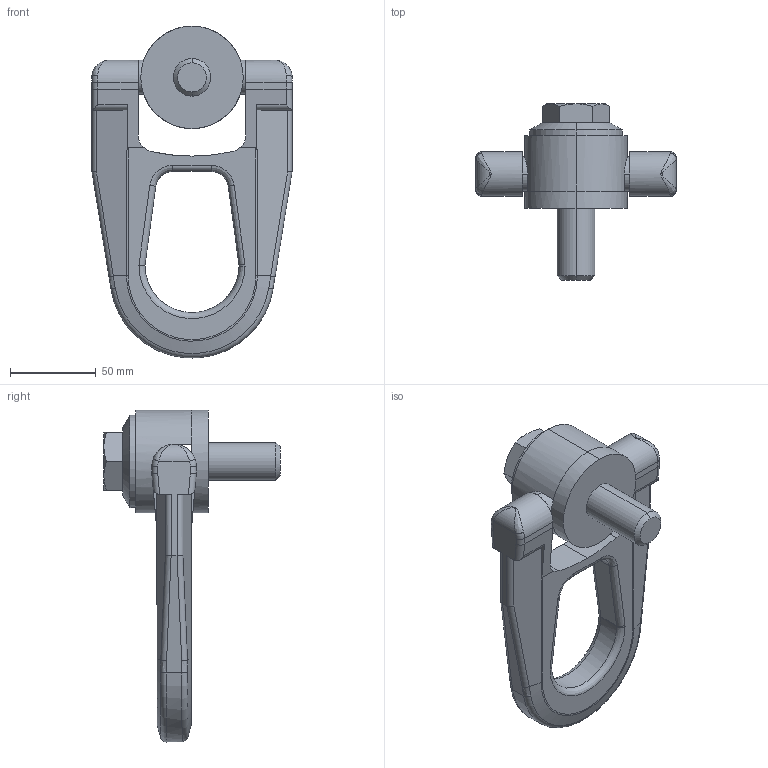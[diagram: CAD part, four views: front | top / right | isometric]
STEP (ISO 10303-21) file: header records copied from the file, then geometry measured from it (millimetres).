
FILE_DESCRIPTION (( 'STEP AP203' ), '1' );
FILE_NAME ('63200.W0022.step', '2013-12-13T15:23:23', ( 'User' ), ( '' ), 'SwSTEP 2.0', 'SolidWorks 2009', '' );
FILE_SCHEMA (( 'CONFIG_CONTROL_DESIGN' ));
Length unit declared in the file: millimetre
Products named in the file (3): 63200.W0022; Part4; Part1_63200.W0022
Assembly tree (2 placements, depth 2):
  63200.W0022
    Part1_63200.W0022
    Part4
Bounding box: 117 x 103 x 194 mm (x, y, z)
Volume: 342933.2 mm3; surface area: 58530.3 mm2
Topology: 2 solids, 2 shells, 141 faces, 353 edges, 217 vertices
Faces by surface type: cylinder 48, plane 47, bspline 26, cone 13, torus 7
Entity records: 7105 total; most frequent: CARTESIAN_POINT 3710, ORIENTED_EDGE 706, DIRECTION 583, EDGE_CURVE 353, AXIS2_PLACEMENT_3D 219, VERTEX_POINT 217, EDGE_LOOP 146, LINE 145
